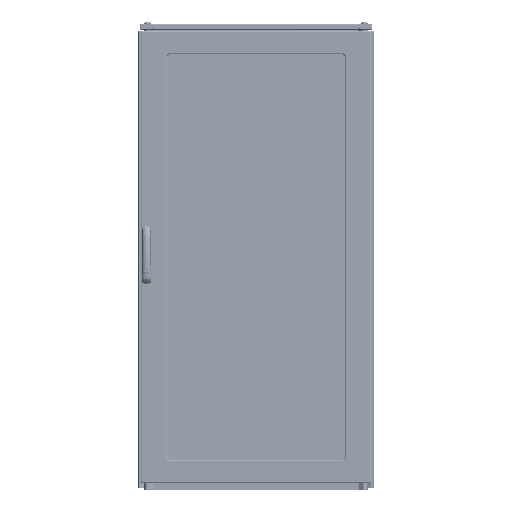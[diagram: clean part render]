
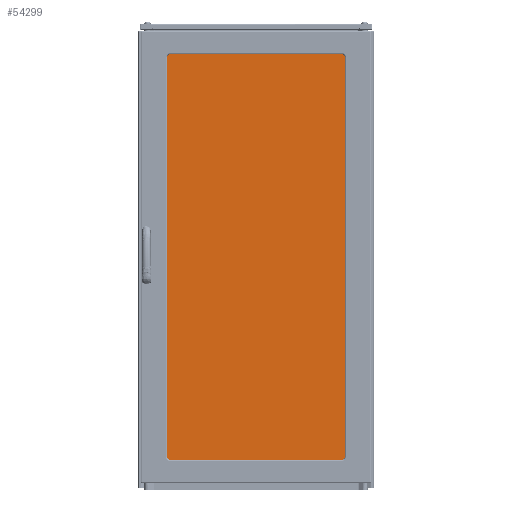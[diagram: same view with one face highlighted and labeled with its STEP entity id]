
A CAD part, top view. The second image highlights one B-rep face of the part: STEP entity #54299.
In plain terms, the highlighted planar face has unit normal (0, 0, 1).
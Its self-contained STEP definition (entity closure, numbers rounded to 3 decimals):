
#5460 = LINE ( 'NONE', #273712, #74306 ) ;
#10206 = DIRECTION ( 'NONE',  ( 0., 1., 0. ) ) ;
#11875 = VECTOR ( 'NONE', #10206, 1000. ) ;
#15184 = ORIENTED_EDGE ( 'NONE', *, *, #184634, .T. ) ;
#25967 = FACE_OUTER_BOUND ( 'NONE', #251304, .T. ) ;
#26276 = LINE ( 'NONE', #208887, #11875 ) ;
#27230 = DIRECTION ( 'NONE',  ( -1., 0., 0. ) ) ;
#31187 = VECTOR ( 'NONE', #282833, 1000. ) ;
#32900 = VECTOR ( 'NONE', #229103, 1000. ) ;
#47745 = DIRECTION ( 'NONE',  ( 1., 0., 0. ) ) ;
#52735 = EDGE_CURVE ( 'NONE', #55397, #171957, #26276, .T. ) ;
#54131 = CARTESIAN_POINT ( 'NONE',  ( 0., 0., 4. ) ) ;
#54299 = ADVANCED_FACE ( 'NONE', ( #25967 ), #179678, .T. ) ;
#55397 = VERTEX_POINT ( 'NONE', #198665 ) ;
#59442 = EDGE_CURVE ( 'NONE', #208846, #101590, #218999, .T. ) ;
#74306 = VECTOR ( 'NONE', #27230, 1000. ) ;
#87569 = CARTESIAN_POINT ( 'NONE',  ( 0., 0., 4. ) ) ;
#94033 = ORIENTED_EDGE ( 'NONE', *, *, #167117, .T. ) ;
#101590 = VERTEX_POINT ( 'NONE', #272073 ) ;
#111523 = ORIENTED_EDGE ( 'NONE', *, *, #52735, .T. ) ;
#127624 = AXIS2_PLACEMENT_3D ( 'NONE', #202859, #268181, #47745 ) ;
#162351 = CARTESIAN_POINT ( 'NONE',  ( 0., -646., 4. ) ) ;
#167117 = EDGE_CURVE ( 'NONE', #101590, #55397, #207307, .T. ) ;
#171957 = VERTEX_POINT ( 'NONE', #190494 ) ;
#179678 = PLANE ( 'NONE',  #127624 ) ;
#184634 = EDGE_CURVE ( 'NONE', #171957, #208846, #5460, .T. ) ;
#190494 = CARTESIAN_POINT ( 'NONE',  ( 1431., 0., 4. ) ) ;
#198665 = CARTESIAN_POINT ( 'NONE',  ( 1431., -646., 4. ) ) ;
#202859 = CARTESIAN_POINT ( 'NONE',  ( 0., -646., 4. ) ) ;
#207307 = LINE ( 'NONE', #162351, #32900 ) ;
#208846 = VERTEX_POINT ( 'NONE', #87569 ) ;
#208887 = CARTESIAN_POINT ( 'NONE',  ( 1431., 0., 4. ) ) ;
#214007 = ORIENTED_EDGE ( 'NONE', *, *, #59442, .T. ) ;
#218999 = LINE ( 'NONE', #54131, #31187 ) ;
#229103 = DIRECTION ( 'NONE',  ( 1., 0., 0. ) ) ;
#251304 = EDGE_LOOP ( 'NONE', ( #214007, #94033, #111523, #15184 ) ) ;
#268181 = DIRECTION ( 'NONE',  ( 0., 0., 1. ) ) ;
#272073 = CARTESIAN_POINT ( 'NONE',  ( 0., -646., 4. ) ) ;
#273712 = CARTESIAN_POINT ( 'NONE',  ( 0., 0., 4. ) ) ;
#282833 = DIRECTION ( 'NONE',  ( 0., -1., 0. ) ) ;
